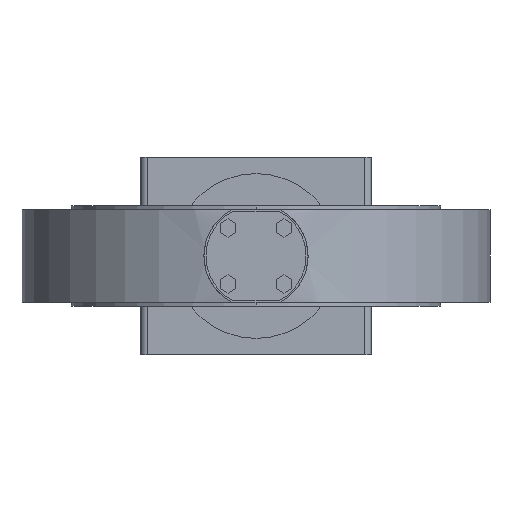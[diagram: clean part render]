
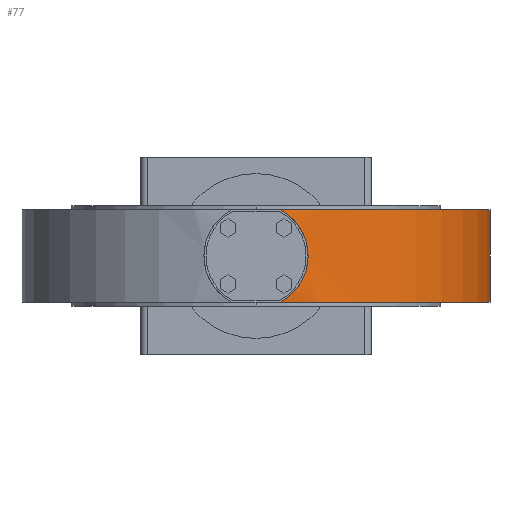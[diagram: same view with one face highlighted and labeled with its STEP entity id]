
A CAD part, front view. The second image highlights one B-rep face of the part: STEP entity #77.
In plain terms, the highlighted cylindrical face has radius 355 mm (diameter 710 mm), a partial arc.
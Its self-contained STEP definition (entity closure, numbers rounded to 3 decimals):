
#77 = ADVANCED_FACE( '', ( #317 ), #318, .T. );
#317 = FACE_OUTER_BOUND( '', #879, .T. );
#318 = CYLINDRICAL_SURFACE( '', #880, 355. );
#879 = EDGE_LOOP( '', ( #1464, #1465, #1466, #1467 ) );
#880 = AXIS2_PLACEMENT_3D( '', #1468, #1469, #1470 );
#1464 = ORIENTED_EDGE( '', *, *, #3401, .F. );
#1465 = ORIENTED_EDGE( '', *, *, #3402, .F. );
#1466 = ORIENTED_EDGE( '', *, *, #3403, .T. );
#1467 = ORIENTED_EDGE( '', *, *, #3404, .T. );
#1468 = CARTESIAN_POINT( '', ( 0., 0., 70. ) );
#1469 = DIRECTION( '', ( 0., 0., 1. ) );
#1470 = DIRECTION( '', ( 1., 0., 0. ) );
#3401 = EDGE_CURVE( '', #4038, #4039, #4040, .T. );
#3402 = EDGE_CURVE( '', #4041, #4038, #4042, .T. );
#3403 = EDGE_CURVE( '', #4041, #4043, #4044, .T. );
#3404 = EDGE_CURVE( '', #4043, #4039, #4045, .T. );
#4038 = VERTEX_POINT( '', #5174 );
#4039 = VERTEX_POINT( '', #5175 );
#4040 = LINE( '', #5176, #5177 );
#4041 = VERTEX_POINT( '', #5178 );
#4042 = CIRCLE( '', #5179, 355. );
#4043 = VERTEX_POINT( '', #5180 );
#4044 = B_SPLINE_CURVE_WITH_KNOTS( '', 3, ( #5181, #5182, #5183, #5184, #5185, #5186, #5187, #5188, #5189, #5190, #5191, #5192, #5193, #5194, #5195, #5196, #5197, #5198, #5199, #5200, #5201, #5202, #5203, #5204, #5205, #5206, #5207, #5208, #5209, #5210, #5211, #5212, #5213, #5214, #5215, #5216, #5217, #5218, #5219, #5220, #5221, #5222, #5223, #5224, #5225, #5226, #5227, #5228, #5229, #5230, #5231 ), .UNSPECIFIED., .F., .F., ( 4, 2, 2, 2, 2, 2, 2, 2, 2, 2, 2, 2, 3, 2, 2, 2, 2, 2, 2, 2, 2, 2, 2, 2, 4 ), ( -82.973, -82.134, -74.667, -67.201, -59.735, -52.268, -44.801, -37.334, -29.867, -22.401, -14.934, -7.467, 0., 7.467, 14.934, 22.401, 29.867, 37.334, 44.801, 52.268, 59.735, 67.201, 74.667, 82.134, 82.973 ), .UNSPECIFIED. );
#4045 = CIRCLE( '', #5232, 355. );
#5174 = CARTESIAN_POINT( '', ( 355., 0., 70. ) );
#5175 = CARTESIAN_POINT( '', ( 355., 0., -70. ) );
#5176 = CARTESIAN_POINT( '', ( 355., 0., 70. ) );
#5177 = VECTOR( '', #7268, 1. );
#5178 = CARTESIAN_POINT( '', ( 36.62, -353.106, 70. ) );
#5179 = AXIS2_PLACEMENT_3D( '', #7269, #7270, #7271 );
#5180 = CARTESIAN_POINT( '', ( 36.62, -353.106, -70. ) );
#5181 = CARTESIAN_POINT( '', ( 36.62, -353.106, 70. ) );
#5182 = CARTESIAN_POINT( '', ( 36.881, -353.079, 69.863 ) );
#5183 = CARTESIAN_POINT( '', ( 37.142, -353.052, 69.725 ) );
#5184 = CARTESIAN_POINT( '', ( 39.713, -352.779, 68.343 ) );
#5185 = CARTESIAN_POINT( '', ( 41.953, -352.519, 66.99 ) );
#5186 = CARTESIAN_POINT( '', ( 46.259, -351.98, 64.092 ) );
#5187 = CARTESIAN_POINT( '', ( 48.324, -351.701, 62.548 ) );
#5188 = CARTESIAN_POINT( '', ( 52.251, -351.139, 59.307 ) );
#5189 = CARTESIAN_POINT( '', ( 54.113, -350.856, 57.61 ) );
#5190 = CARTESIAN_POINT( '', ( 57.61, -350.299, 54.113 ) );
#5191 = CARTESIAN_POINT( '', ( 59.307, -350.015, 52.251 ) );
#5192 = CARTESIAN_POINT( '', ( 62.548, -349.45, 48.324 ) );
#5193 = CARTESIAN_POINT( '', ( 64.093, -349.169, 46.259 ) );
#5194 = CARTESIAN_POINT( '', ( 66.99, -348.625, 41.953 ) );
#5195 = CARTESIAN_POINT( '', ( 68.343, -348.362, 39.713 ) );
#5196 = CARTESIAN_POINT( '', ( 70.827, -347.865, 35.091 ) );
#5197 = CARTESIAN_POINT( '', ( 71.958, -347.632, 32.71 ) );
#5198 = CARTESIAN_POINT( '', ( 73.976, -347.208, 27.847 ) );
#5199 = CARTESIAN_POINT( '', ( 74.864, -347.017, 25.362 ) );
#5200 = CARTESIAN_POINT( '', ( 76.384, -346.686, 20.331 ) );
#5201 = CARTESIAN_POINT( '', ( 77.016, -346.545, 17.784 ) );
#5202 = CARTESIAN_POINT( '', ( 78.02, -346.321, 12.675 ) );
#5203 = CARTESIAN_POINT( '', ( 78.392, -346.237, 10.112 ) );
#5204 = CARTESIAN_POINT( '', ( 78.882, -346.125, 5.019 ) );
#5205 = CARTESIAN_POINT( '', ( 79., -346.098, 2.489 ) );
#5206 = CARTESIAN_POINT( '', ( 79., -346.098, 0. ) );
#5207 = CARTESIAN_POINT( '', ( 79., -346.098, -2.489 ) );
#5208 = CARTESIAN_POINT( '', ( 78.882, -346.125, -5.019 ) );
#5209 = CARTESIAN_POINT( '', ( 78.392, -346.237, -10.112 ) );
#5210 = CARTESIAN_POINT( '', ( 78.02, -346.321, -12.675 ) );
#5211 = CARTESIAN_POINT( '', ( 77.016, -346.545, -17.784 ) );
#5212 = CARTESIAN_POINT( '', ( 76.384, -346.686, -20.331 ) );
#5213 = CARTESIAN_POINT( '', ( 74.864, -347.017, -25.362 ) );
#5214 = CARTESIAN_POINT( '', ( 73.976, -347.208, -27.847 ) );
#5215 = CARTESIAN_POINT( '', ( 71.958, -347.632, -32.71 ) );
#5216 = CARTESIAN_POINT( '', ( 70.827, -347.865, -35.091 ) );
#5217 = CARTESIAN_POINT( '', ( 68.343, -348.362, -39.713 ) );
#5218 = CARTESIAN_POINT( '', ( 66.99, -348.625, -41.953 ) );
#5219 = CARTESIAN_POINT( '', ( 64.093, -349.169, -46.259 ) );
#5220 = CARTESIAN_POINT( '', ( 62.548, -349.45, -48.324 ) );
#5221 = CARTESIAN_POINT( '', ( 59.307, -350.015, -52.251 ) );
#5222 = CARTESIAN_POINT( '', ( 57.61, -350.299, -54.113 ) );
#5223 = CARTESIAN_POINT( '', ( 54.113, -350.856, -57.61 ) );
#5224 = CARTESIAN_POINT( '', ( 52.251, -351.139, -59.307 ) );
#5225 = CARTESIAN_POINT( '', ( 48.324, -351.701, -62.548 ) );
#5226 = CARTESIAN_POINT( '', ( 46.259, -351.98, -64.092 ) );
#5227 = CARTESIAN_POINT( '', ( 41.953, -352.519, -66.99 ) );
#5228 = CARTESIAN_POINT( '', ( 39.713, -352.779, -68.343 ) );
#5229 = CARTESIAN_POINT( '', ( 37.142, -353.052, -69.725 ) );
#5230 = CARTESIAN_POINT( '', ( 36.881, -353.079, -69.863 ) );
#5231 = CARTESIAN_POINT( '', ( 36.62, -353.106, -70. ) );
#5232 = AXIS2_PLACEMENT_3D( '', #7272, #7273, #7274 );
#7268 = DIRECTION( '', ( 0., 0., -1. ) );
#7269 = CARTESIAN_POINT( '', ( 0., 0., 70. ) );
#7270 = DIRECTION( '', ( 0., 0., 1. ) );
#7271 = DIRECTION( '', ( 1., 0., 0. ) );
#7272 = CARTESIAN_POINT( '', ( 0., 0., -70. ) );
#7273 = DIRECTION( '', ( 0., 0., 1. ) );
#7274 = DIRECTION( '', ( 1., 0., 0. ) );
